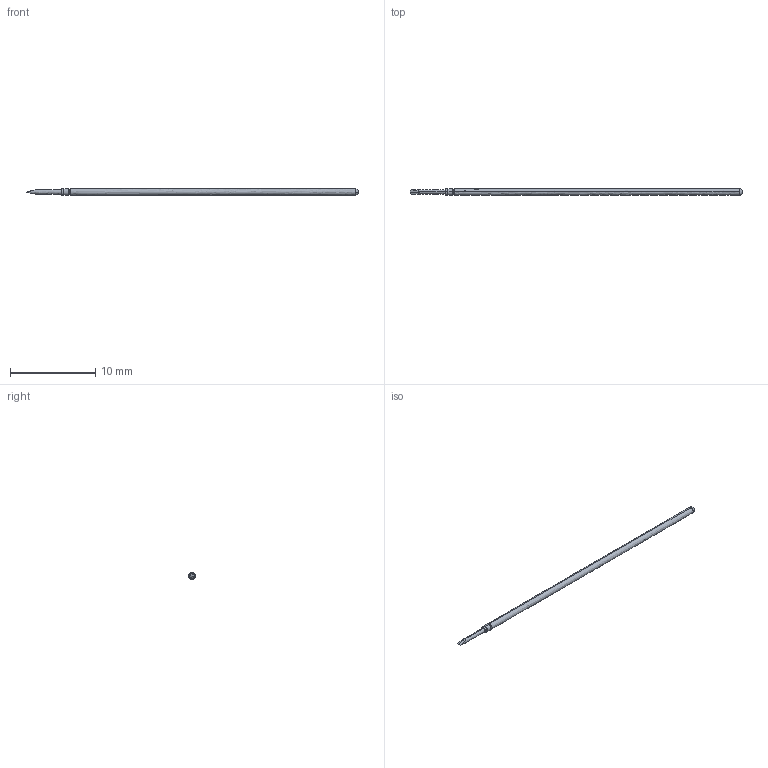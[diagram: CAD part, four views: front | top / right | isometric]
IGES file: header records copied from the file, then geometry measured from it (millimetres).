
Start section: SolidWorks IGES file using analytic representation for surfaces
Global section: file name: L:\probe solid model mockups\Solidworks models\POGO-72I RECD.IGS; native system: SolidWorks 2006 by SolidWorks Corporation; preprocessor: SolidWorks 2006 by SolidWorks Corporation; author: Ksnyder; date: 071211.135748; units: inch
Bounding box: 38.94 x 0.79 x 0.79 mm (x, y, z)
Surface area: 175.3 mm2
Topology: 1 solids, 1 shells, 22 faces, 48 edges, 27 vertices
Faces by surface type: revolution 16, plane 6
